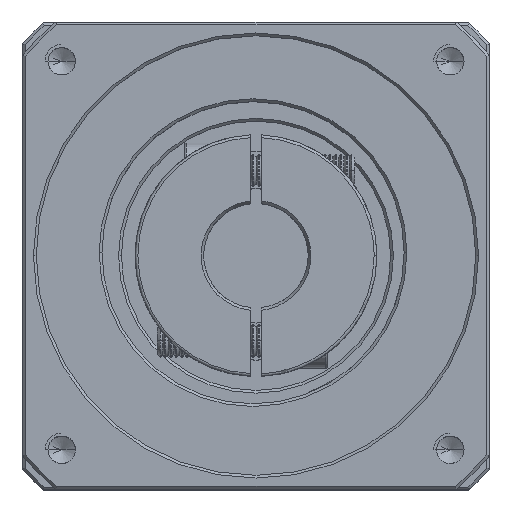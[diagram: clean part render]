
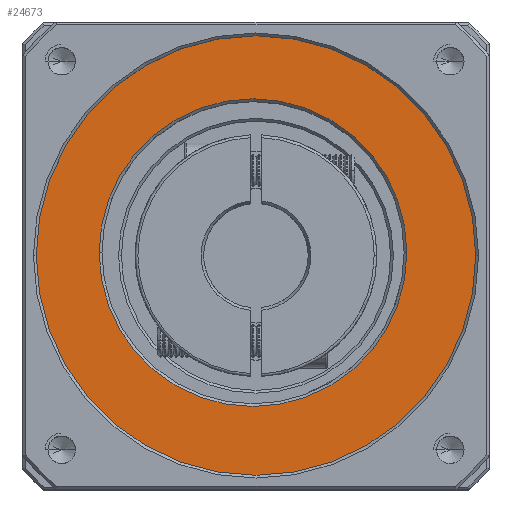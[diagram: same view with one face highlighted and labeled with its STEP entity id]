
A CAD part, top view. The second image highlights one B-rep face of the part: STEP entity #24673.
In plain terms, the highlighted planar face has unit normal (0, 0, 1).
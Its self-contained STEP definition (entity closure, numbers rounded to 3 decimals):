
#965 = ORIENTED_EDGE ( 'NONE', *, *, #29354, .T. ) ;
#7095 = DIRECTION ( 'NONE',  ( 1., 0., 0. ) ) ;
#7479 = CIRCLE ( 'NONE', #79382, 28. ) ;
#7961 = DIRECTION ( 'NONE',  ( 1., 0., 0. ) ) ;
#9313 = DIRECTION ( 'NONE',  ( 0., 0., -1. ) ) ;
#13874 = AXIS2_PLACEMENT_3D ( 'NONE', #105637, #52040, #114602 ) ;
#20356 = EDGE_CURVE ( 'NONE', #104273, #30271, #69734, .T. ) ;
#24673 = ADVANCED_FACE ( 'NONE', ( #38540, #83386 ), #92629, .T. ) ;
#25267 = CARTESIAN_POINT ( 'NONE',  ( -53.264, 24.596, 19.207 ) ) ;
#25467 = AXIS2_PLACEMENT_3D ( 'NONE', #114417, #60814, #7095 ) ;
#27944 = CIRCLE ( 'NONE', #101465, 40. ) ;
#29354 = EDGE_CURVE ( 'NONE', #30271, #104273, #27944, .T. ) ;
#30271 = VERTEX_POINT ( 'NONE', #25267 ) ;
#36874 = EDGE_LOOP ( 'NONE', ( #965, #80994 ) ) ;
#38540 = FACE_OUTER_BOUND ( 'NONE', #36874, .T. ) ;
#39403 = CARTESIAN_POINT ( 'NONE',  ( -93.264, 24.596, 19.207 ) ) ;
#43600 = EDGE_CURVE ( 'NONE', #101124, #60699, #7479, .T. ) ;
#48407 = DIRECTION ( 'NONE',  ( 1., 0., 0. ) ) ;
#49502 = EDGE_LOOP ( 'NONE', ( #52224, #63497 ) ) ;
#52040 = DIRECTION ( 'NONE',  ( 0., 0., -1. ) ) ;
#52224 = ORIENTED_EDGE ( 'NONE', *, *, #78764, .T. ) ;
#60699 = VERTEX_POINT ( 'NONE', #78029 ) ;
#60814 = DIRECTION ( 'NONE',  ( 0., 0., 1. ) ) ;
#61336 = AXIS2_PLACEMENT_3D ( 'NONE', #39403, #102021, #48407 ) ;
#61672 = DIRECTION ( 'NONE',  ( 0., 0., 1. ) ) ;
#63010 = CARTESIAN_POINT ( 'NONE',  ( -93.806, 25.131, 19.207 ) ) ;
#63497 = ORIENTED_EDGE ( 'NONE', *, *, #43600, .T. ) ;
#67888 = CARTESIAN_POINT ( 'NONE',  ( -133.264, 24.596, 19.207 ) ) ;
#69734 = CIRCLE ( 'NONE', #25467, 40. ) ;
#72026 = DIRECTION ( 'NONE',  ( 1., 0., 0. ) ) ;
#78029 = CARTESIAN_POINT ( 'NONE',  ( -65.806, 25.131, 19.207 ) ) ;
#78764 = EDGE_CURVE ( 'NONE', #60699, #101124, #97132, .T. ) ;
#79382 = AXIS2_PLACEMENT_3D ( 'NONE', #63010, #9313, #72026 ) ;
#80994 = ORIENTED_EDGE ( 'NONE', *, *, #20356, .T. ) ;
#83386 = FACE_BOUND ( 'NONE', #49502, .T. ) ;
#92629 = PLANE ( 'NONE',  #61336 ) ;
#97132 = CIRCLE ( 'NONE', #13874, 28. ) ;
#101124 = VERTEX_POINT ( 'NONE', #101974 ) ;
#101465 = AXIS2_PLACEMENT_3D ( 'NONE', #115269, #61672, #7961 ) ;
#101974 = CARTESIAN_POINT ( 'NONE',  ( -121.806, 25.131, 19.207 ) ) ;
#102021 = DIRECTION ( 'NONE',  ( 0., 0., 1. ) ) ;
#104273 = VERTEX_POINT ( 'NONE', #67888 ) ;
#105637 = CARTESIAN_POINT ( 'NONE',  ( -93.806, 25.131, 19.207 ) ) ;
#114417 = CARTESIAN_POINT ( 'NONE',  ( -93.264, 24.596, 19.207 ) ) ;
#114602 = DIRECTION ( 'NONE',  ( 1., 0., 0. ) ) ;
#115269 = CARTESIAN_POINT ( 'NONE',  ( -93.264, 24.596, 19.207 ) ) ;
